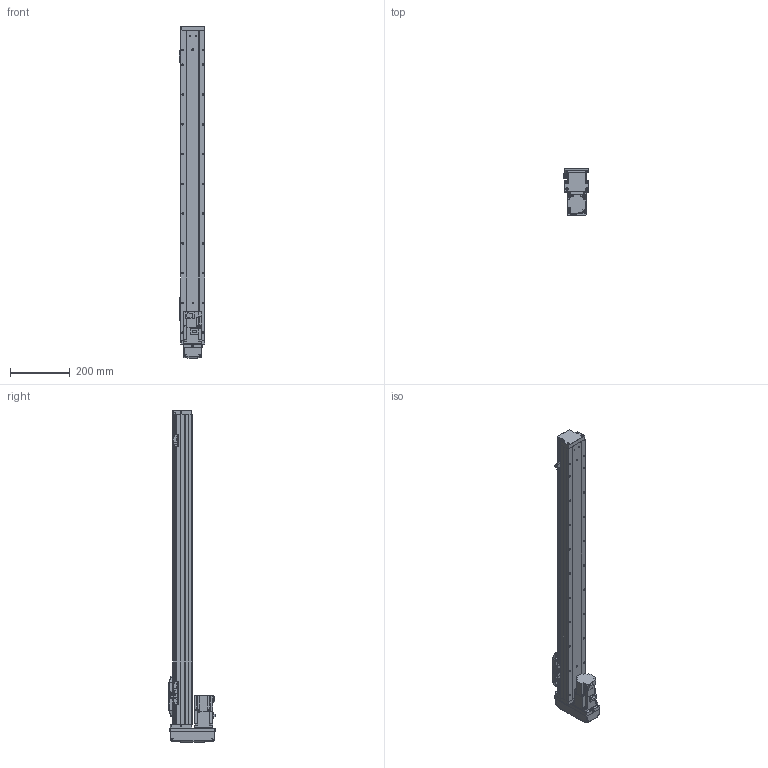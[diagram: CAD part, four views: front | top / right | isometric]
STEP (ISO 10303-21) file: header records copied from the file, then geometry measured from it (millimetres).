
FILE_DESCRIPTION (( 'STEP AP203' ), '1' );
FILE_NAME ('17.STEP', '2021-04-21T09:06:06', ( '' ), ( '' ), 'SwSTEP 2.0', 'SolidWorks 2016', '' );
FILE_SCHEMA (( 'CONFIG_CONTROL_DESIGN' ));
Length unit declared in the file: millimetre
Products named in the file (10): CTH8-BM-HZ; CTH8-BM-01; CTH8-BM-02; CTH8-BM-05; 17; CTH8-BM-07; CTH8-BM-T20; CTH8-BM-菁釱; PM-Y45; CTH8-BM-03
Assembly tree (14 placements, depth 2):
  17
    CTH8-BM-菁釱
    CTH8-BM-01
    CTH8-BM-02
    CTH8-BM-03
    CTH8-BM-05  x2
    CTH8-BM-07  x3
    CTH8-BM-HZ
    CTH8-BM-T20
    PM-Y45  x3
Bounding box: 87 x 156 x 1115 mm (x, y, z)
Volume: 4836149.3 mm3; surface area: 711847.9 mm2
Topology: 30 solids, 30 shells, 1775 faces, 4763 edges, 2995 vertices
Faces by surface type: plane 821, cylinder 706, cone 152, bspline 66, torus 26, sphere 4
Entity records: 56407 total; most frequent: CARTESIAN_POINT 17028, ORIENTED_EDGE 8194, DIRECTION 7597, EDGE_CURVE 4097, AXIS2_PLACEMENT_3D 2624, VERTEX_POINT 2595, VECTOR 2349, LINE 2349
